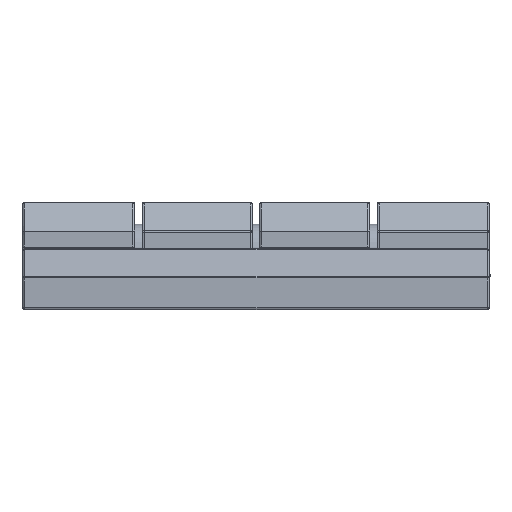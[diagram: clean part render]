
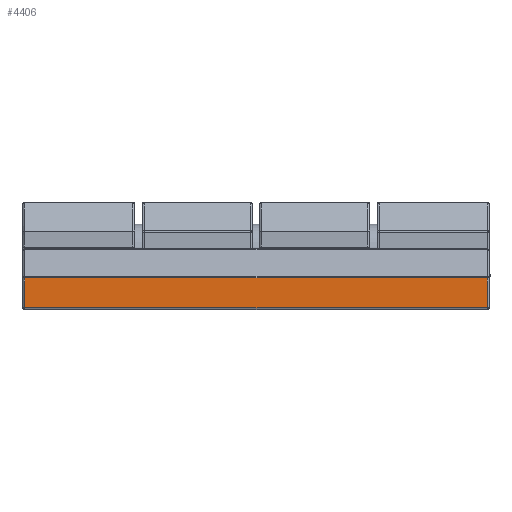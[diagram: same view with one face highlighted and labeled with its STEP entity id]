
A CAD part, left-side view. The second image highlights one B-rep face of the part: STEP entity #4406.
In plain terms, the highlighted planar face has unit normal (-1, 0, 0).
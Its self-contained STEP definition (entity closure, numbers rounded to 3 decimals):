
#158 = ORIENTED_EDGE ( 'NONE', *, *, #8934, .T. ) ;
#708 = LINE ( 'NONE', #8221, #7321 ) ;
#929 = VERTEX_POINT ( 'NONE', #4892 ) ;
#1812 = CARTESIAN_POINT ( 'NONE',  ( -31.5, 49.8, -6.215 ) ) ;
#2182 = CARTESIAN_POINT ( 'NONE',  ( -31.5, 0.2, -6.215 ) ) ;
#3666 = VECTOR ( 'NONE', #6048, 1000. ) ;
#3878 = CARTESIAN_POINT ( 'NONE',  ( -31.5, 50., -6.215 ) ) ;
#4266 = DIRECTION ( 'NONE',  ( 0., 1., 0. ) ) ;
#4406 = ADVANCED_FACE ( 'NONE', ( #5583 ), #9960, .F. ) ;
#4547 = CARTESIAN_POINT ( 'NONE',  ( -31.5, 49.8, -2.818 ) ) ;
#4766 = DIRECTION ( 'NONE',  ( 0., 0., 1. ) ) ;
#4892 = CARTESIAN_POINT ( 'NONE',  ( -31.5, 0.2, -2.818 ) ) ;
#5583 = FACE_OUTER_BOUND ( 'NONE', #7859, .T. ) ;
#6048 = DIRECTION ( 'NONE',  ( 0., 0., -1. ) ) ;
#6672 = VERTEX_POINT ( 'NONE', #9345 ) ;
#6754 = ORIENTED_EDGE ( 'NONE', *, *, #9999, .T. ) ;
#6973 = LINE ( 'NONE', #16731, #10479 ) ;
#7321 = VECTOR ( 'NONE', #4266, 1000. ) ;
#7756 = DIRECTION ( 'NONE',  ( 1., 0., 0. ) ) ;
#7859 = EDGE_LOOP ( 'NONE', ( #7935, #158, #8645, #6754 ) ) ;
#7935 = ORIENTED_EDGE ( 'NONE', *, *, #8665, .T. ) ;
#8221 = CARTESIAN_POINT ( 'NONE',  ( -31.5, 50., -2.818 ) ) ;
#8645 = ORIENTED_EDGE ( 'NONE', *, *, #10885, .T. ) ;
#8665 = EDGE_CURVE ( 'NONE', #15928, #12086, #10699, .T. ) ;
#8934 = EDGE_CURVE ( 'NONE', #12086, #6672, #6973, .T. ) ;
#9031 = DIRECTION ( 'NONE',  ( 0., -1., 0. ) ) ;
#9345 = CARTESIAN_POINT ( 'NONE',  ( -31.5, 0.2, -6.015 ) ) ;
#9960 = PLANE ( 'NONE',  #12724 ) ;
#9999 = EDGE_CURVE ( 'NONE', #929, #15928, #708, .T. ) ;
#10479 = VECTOR ( 'NONE', #9031, 1000. ) ;
#10699 = LINE ( 'NONE', #1812, #3666 ) ;
#10885 = EDGE_CURVE ( 'NONE', #6672, #929, #16114, .T. ) ;
#11985 = CARTESIAN_POINT ( 'NONE',  ( -31.5, 49.8, -6.015 ) ) ;
#12086 = VERTEX_POINT ( 'NONE', #11985 ) ;
#12724 = AXIS2_PLACEMENT_3D ( 'NONE', #3878, #7756, #15751 ) ;
#15699 = VECTOR ( 'NONE', #4766, 1000. ) ;
#15751 = DIRECTION ( 'NONE',  ( 0., 0., -1. ) ) ;
#15928 = VERTEX_POINT ( 'NONE', #4547 ) ;
#16114 = LINE ( 'NONE', #2182, #15699 ) ;
#16731 = CARTESIAN_POINT ( 'NONE',  ( -31.5, 50., -6.015 ) ) ;
